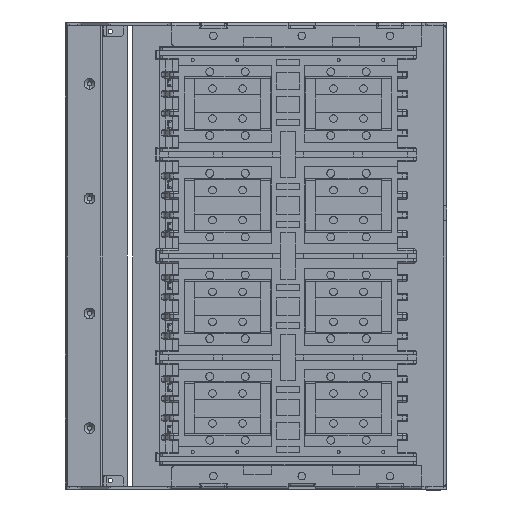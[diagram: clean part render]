
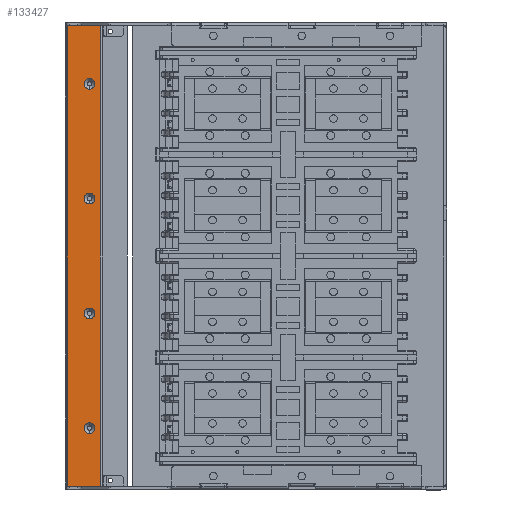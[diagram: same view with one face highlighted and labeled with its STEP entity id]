
A CAD part, left-side view. The second image highlights one B-rep face of the part: STEP entity #133427.
In plain terms, the highlighted planar face has unit normal (-1, 0, 0).
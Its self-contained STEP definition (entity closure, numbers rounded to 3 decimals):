
#1411 = VERTEX_POINT ( 'NONE', #120747 ) ;
#1973 = VERTEX_POINT ( 'NONE', #134948 ) ;
#4264 = CARTESIAN_POINT ( 'NONE',  ( 294.756, 591.613, -106.612 ) ) ;
#4578 = AXIS2_PLACEMENT_3D ( 'NONE', #95639, #59042, #132132 ) ;
#6591 = VERTEX_POINT ( 'NONE', #12057 ) ;
#7082 = PLANE ( 'NONE',  #93082 ) ;
#7408 = DIRECTION ( 'NONE',  ( 0., 0., -1. ) ) ;
#7445 = VERTEX_POINT ( 'NONE', #142158 ) ;
#12057 = CARTESIAN_POINT ( 'NONE',  ( 294.756, 579.413, 349.188 ) ) ;
#16982 = CARTESIAN_POINT ( 'NONE',  ( 294.756, 617.613, -172.412 ) ) ;
#17870 = VERTEX_POINT ( 'NONE', #109135 ) ;
#18006 = EDGE_CURVE ( 'NONE', #179889, #224165, #131616, .T. ) ;
#24750 = ORIENTED_EDGE ( 'NONE', *, *, #231263, .T. ) ;
#25437 = ORIENTED_EDGE ( 'NONE', *, *, #80894, .T. ) ;
#25616 = DIRECTION ( 'NONE',  ( 1., 0., 0. ) ) ;
#25831 = ORIENTED_EDGE ( 'NONE', *, *, #195412, .T. ) ;
#27074 = EDGE_LOOP ( 'NONE', ( #25831, #148904 ) ) ;
#28586 = CIRCLE ( 'NONE', #174636, 6.1 ) ;
#33632 = EDGE_CURVE ( 'NONE', #17870, #1411, #222817, .T. ) ;
#37712 = FACE_BOUND ( 'NONE', #213460, .T. ) ;
#38658 = VERTEX_POINT ( 'NONE', #133182 ) ;
#40039 = VECTOR ( 'NONE', #218759, 1000. ) ;
#44450 = ORIENTED_EDGE ( 'NONE', *, *, #18006, .T. ) ;
#45618 = CARTESIAN_POINT ( 'NONE',  ( 294.756, 591.613, -112.712 ) ) ;
#49537 = LINE ( 'NONE', #120291, #229276 ) ;
#54609 = CARTESIAN_POINT ( 'NONE',  ( 294.756, 591.613, 23.388 ) ) ;
#57675 = DIRECTION ( 'NONE',  ( 0., -1., 0. ) ) ;
#58096 = ORIENTED_EDGE ( 'NONE', *, *, #191289, .T. ) ;
#58819 = DIRECTION ( 'NONE',  ( 0., 0., -1. ) ) ;
#58889 = CIRCLE ( 'NONE', #4578, 6.1 ) ;
#59042 = DIRECTION ( 'NONE',  ( 1., 0., 0. ) ) ;
#66219 = DIRECTION ( 'NONE',  ( 0., 0., 1. ) ) ;
#67007 = EDGE_CURVE ( 'NONE', #224165, #179889, #95756, .T. ) ;
#69417 = EDGE_LOOP ( 'NONE', ( #44450, #204205 ) ) ;
#76678 = VERTEX_POINT ( 'NONE', #45618 ) ;
#80660 = DIRECTION ( 'NONE',  ( 0., 0., -1. ) ) ;
#80894 = EDGE_CURVE ( 'NONE', #7445, #213101, #103078, .T. ) ;
#81481 = EDGE_CURVE ( 'NONE', #159050, #38658, #58889, .T. ) ;
#84349 = EDGE_CURVE ( 'NONE', #1973, #6591, #221505, .T. ) ;
#84373 = AXIS2_PLACEMENT_3D ( 'NONE', #114708, #186096, #58819 ) ;
#86857 = CARTESIAN_POINT ( 'NONE',  ( 294.756, 591.613, 277.288 ) ) ;
#88335 = VECTOR ( 'NONE', #57675, 1000. ) ;
#92425 = DIRECTION ( 'NONE',  ( 0., 0., -1. ) ) ;
#93082 = AXIS2_PLACEMENT_3D ( 'NONE', #101037, #25616, #155477 ) ;
#95639 = CARTESIAN_POINT ( 'NONE',  ( 294.756, 591.613, 283.388 ) ) ;
#95756 = CIRCLE ( 'NONE', #151333, 6.1 ) ;
#95983 = CARTESIAN_POINT ( 'NONE',  ( 294.756, 591.613, 23.388 ) ) ;
#98178 = CARTESIAN_POINT ( 'NONE',  ( 294.756, 591.613, 147.288 ) ) ;
#98473 = EDGE_LOOP ( 'NONE', ( #58096, #167985 ) ) ;
#100240 = ORIENTED_EDGE ( 'NONE', *, *, #131731, .T. ) ;
#101037 = CARTESIAN_POINT ( 'NONE',  ( 294.756, 617.613, 349.188 ) ) ;
#101835 = CARTESIAN_POINT ( 'NONE',  ( 294.756, 579.413, 349.188 ) ) ;
#103078 = CIRCLE ( 'NONE', #209353, 6.1 ) ;
#109135 = CARTESIAN_POINT ( 'NONE',  ( 294.756, 616.613, -172.412 ) ) ;
#113255 = FACE_BOUND ( 'NONE', #27074, .T. ) ;
#113983 = ORIENTED_EDGE ( 'NONE', *, *, #84349, .F. ) ;
#114708 = CARTESIAN_POINT ( 'NONE',  ( 294.756, 591.613, -106.612 ) ) ;
#120291 = CARTESIAN_POINT ( 'NONE',  ( 294.756, 616.613, 349.188 ) ) ;
#120747 = CARTESIAN_POINT ( 'NONE',  ( 294.756, 579.413, -172.412 ) ) ;
#126013 = VERTEX_POINT ( 'NONE', #166644 ) ;
#131616 = CIRCLE ( 'NONE', #151809, 6.1 ) ;
#131731 = EDGE_CURVE ( 'NONE', #213101, #7445, #28586, .T. ) ;
#132132 = DIRECTION ( 'NONE',  ( 0., 0., -1. ) ) ;
#133182 = CARTESIAN_POINT ( 'NONE',  ( 294.756, 591.613, 289.488 ) ) ;
#133189 = ORIENTED_EDGE ( 'NONE', *, *, #229647, .T. ) ;
#133427 = ADVANCED_FACE ( 'NONE', ( #159695, #113255, #206059, #37712, #234972 ), #7082, .F. ) ;
#134948 = CARTESIAN_POINT ( 'NONE',  ( 294.756, 616.613, 349.188 ) ) ;
#142136 = DIRECTION ( 'NONE',  ( 0., 0., -1. ) ) ;
#142158 = CARTESIAN_POINT ( 'NONE',  ( 294.756, 591.613, 17.288 ) ) ;
#142935 = DIRECTION ( 'NONE',  ( 1., 0., 0. ) ) ;
#147303 = EDGE_CURVE ( 'NONE', #76678, #126013, #183855, .T. ) ;
#148491 = CARTESIAN_POINT ( 'NONE',  ( 294.756, 591.613, 159.488 ) ) ;
#148904 = ORIENTED_EDGE ( 'NONE', *, *, #81481, .T. ) ;
#150359 = DIRECTION ( 'NONE',  ( 1., 0., 0. ) ) ;
#151333 = AXIS2_PLACEMENT_3D ( 'NONE', #203350, #218767, #92425 ) ;
#151809 = AXIS2_PLACEMENT_3D ( 'NONE', #190841, #172228, #80660 ) ;
#151967 = DIRECTION ( 'NONE',  ( 1., 0., 0. ) ) ;
#155477 = DIRECTION ( 'NONE',  ( 0., 1., 0. ) ) ;
#155562 = ORIENTED_EDGE ( 'NONE', *, *, #33632, .T. ) ;
#159050 = VERTEX_POINT ( 'NONE', #86857 ) ;
#159695 = FACE_OUTER_BOUND ( 'NONE', #173214, .T. ) ;
#164685 = CIRCLE ( 'NONE', #186645, 6.1 ) ;
#166368 = CARTESIAN_POINT ( 'NONE',  ( 294.756, 617.613, 349.188 ) ) ;
#166644 = CARTESIAN_POINT ( 'NONE',  ( 294.756, 591.613, -100.512 ) ) ;
#167200 = VECTOR ( 'NONE', #66219, 1000. ) ;
#167985 = ORIENTED_EDGE ( 'NONE', *, *, #147303, .T. ) ;
#172228 = DIRECTION ( 'NONE',  ( 1., 0., 0. ) ) ;
#172887 = LINE ( 'NONE', #101835, #167200 ) ;
#173214 = EDGE_LOOP ( 'NONE', ( #113983, #24750, #155562, #133189 ) ) ;
#173405 = AXIS2_PLACEMENT_3D ( 'NONE', #4264, #210797, #7408 ) ;
#174636 = AXIS2_PLACEMENT_3D ( 'NONE', #95983, #151967, #206880 ) ;
#176892 = DIRECTION ( 'NONE',  ( 0., 0., -1. ) ) ;
#179889 = VERTEX_POINT ( 'NONE', #148491 ) ;
#183855 = CIRCLE ( 'NONE', #173405, 6.1 ) ;
#186096 = DIRECTION ( 'NONE',  ( 1., 0., 0. ) ) ;
#186645 = AXIS2_PLACEMENT_3D ( 'NONE', #233652, #142935, #142136 ) ;
#188390 = CARTESIAN_POINT ( 'NONE',  ( 294.756, 591.613, 29.488 ) ) ;
#190841 = CARTESIAN_POINT ( 'NONE',  ( 294.756, 591.613, 153.388 ) ) ;
#191289 = EDGE_CURVE ( 'NONE', #126013, #76678, #234316, .T. ) ;
#195412 = EDGE_CURVE ( 'NONE', #38658, #159050, #164685, .T. ) ;
#203350 = CARTESIAN_POINT ( 'NONE',  ( 294.756, 591.613, 153.388 ) ) ;
#204205 = ORIENTED_EDGE ( 'NONE', *, *, #67007, .T. ) ;
#206059 = FACE_BOUND ( 'NONE', #69417, .T. ) ;
#206880 = DIRECTION ( 'NONE',  ( 0., 0., -1. ) ) ;
#209353 = AXIS2_PLACEMENT_3D ( 'NONE', #54609, #150359, #223137 ) ;
#210797 = DIRECTION ( 'NONE',  ( 1., 0., 0. ) ) ;
#213101 = VERTEX_POINT ( 'NONE', #188390 ) ;
#213460 = EDGE_LOOP ( 'NONE', ( #100240, #25437 ) ) ;
#218759 = DIRECTION ( 'NONE',  ( 0., -1., 0. ) ) ;
#218767 = DIRECTION ( 'NONE',  ( 1., 0., 0. ) ) ;
#221505 = LINE ( 'NONE', #166368, #88335 ) ;
#222817 = LINE ( 'NONE', #16982, #40039 ) ;
#223137 = DIRECTION ( 'NONE',  ( 0., 0., -1. ) ) ;
#224165 = VERTEX_POINT ( 'NONE', #98178 ) ;
#229276 = VECTOR ( 'NONE', #176892, 1000. ) ;
#229647 = EDGE_CURVE ( 'NONE', #1411, #6591, #172887, .T. ) ;
#231263 = EDGE_CURVE ( 'NONE', #1973, #17870, #49537, .T. ) ;
#233652 = CARTESIAN_POINT ( 'NONE',  ( 294.756, 591.613, 283.388 ) ) ;
#234316 = CIRCLE ( 'NONE', #84373, 6.1 ) ;
#234972 = FACE_BOUND ( 'NONE', #98473, .T. ) ;
